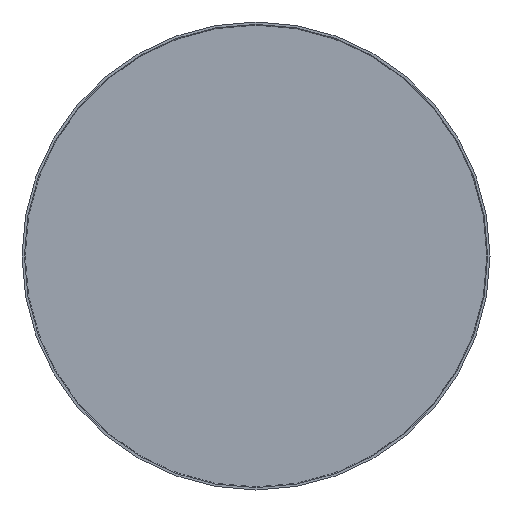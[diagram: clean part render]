
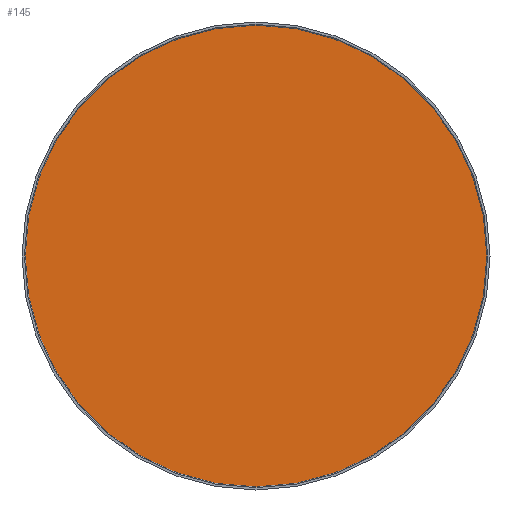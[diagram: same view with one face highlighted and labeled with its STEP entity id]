
A CAD part, front view. The second image highlights one B-rep face of the part: STEP entity #145.
In plain terms, the highlighted planar face has unit normal (0, -1, 0).
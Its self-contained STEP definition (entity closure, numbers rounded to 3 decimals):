
#145 = ADVANCED_FACE( '', ( #326 ), #327, .T. );
#326 = FACE_OUTER_BOUND( '', #551, .T. );
#327 = PLANE( '', #552 );
#551 = EDGE_LOOP( '', ( #965 ) );
#552 = AXIS2_PLACEMENT_3D( '', #966, #967, #968 );
#965 = ORIENTED_EDGE( '', *, *, #1538, .T. );
#966 = CARTESIAN_POINT( '', ( -145.5, 6., 0. ) );
#967 = DIRECTION( '', ( 0., -1., 0. ) );
#968 = DIRECTION( '', ( 1., 0., 0. ) );
#1538 = EDGE_CURVE( '', #1826, #1826, #1827, .T. );
#1826 = VERTEX_POINT( '', #2466 );
#1827 = CIRCLE( '', #2467, 145.5 );
#2466 = CARTESIAN_POINT( '', ( 145.5, 6., 0. ) );
#2467 = AXIS2_PLACEMENT_3D( '', #2901, #2902, #2903 );
#2901 = CARTESIAN_POINT( '', ( 0., 6., 0. ) );
#2902 = DIRECTION( '', ( 0., -1., 0. ) );
#2903 = DIRECTION( '', ( 1., 0., 0. ) );
